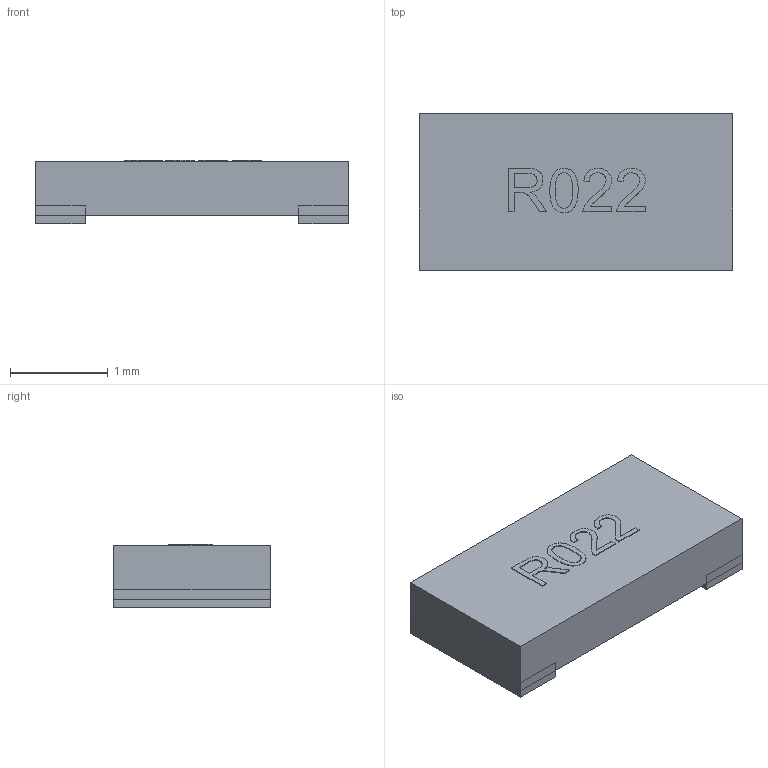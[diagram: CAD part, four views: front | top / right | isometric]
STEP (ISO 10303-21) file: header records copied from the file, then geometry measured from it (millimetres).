
FILE_DESCRIPTION(('Open CASCADE Model'),'2;1');
FILE_NAME('Open CASCADE Shape Model','2026-10-09T18:49:11',('Author'),( 'Open CASCADE'),'Open CASCADE STEP processor 7.9','Open CASCADE 7.9' ,'Unknown');
FILE_SCHEMA(('AUTOMOTIVE_DESIGN { 1 0 10303 214 1 1 1 1 }'));
Length unit declared in the file: millimetre
Products named in the file (5): Vishay_WSL1206; body; terminal0; terminal1; mark_3
Assembly tree (4 placements, depth 2):
  Vishay_WSL1206
    body
    terminal0
    terminal1
    mark_3
Bounding box: 3.2 x 1.6 x 0.65 mm (x, y, z)
Volume: 3.1 mm3; surface area: 20.9 mm2
Topology: 7 solids, 7 shells, 117 faces, 309 edges, 206 vertices
Faces by surface type: extrusion 72, plane 45
Entity records: 7838 total; most frequent: CARTESIAN_POINT 1975, DIRECTION 811, VECTOR 711, LINE 639, ORIENTED_EDGE 618, PCURVE 618, DEFINITIONAL_REPRESENTATION 618, B_SPLINE_CURVE_WITH_KNOTS 360
